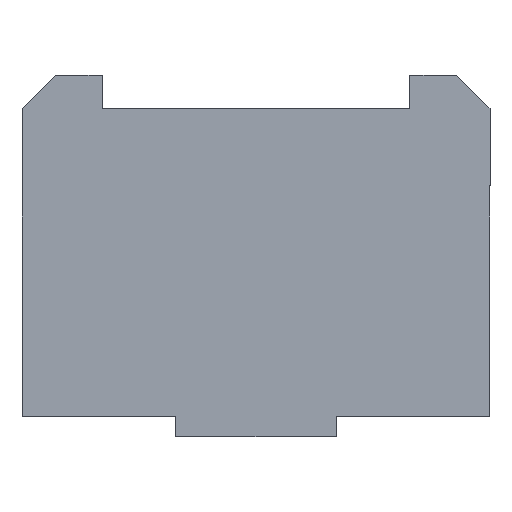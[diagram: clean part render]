
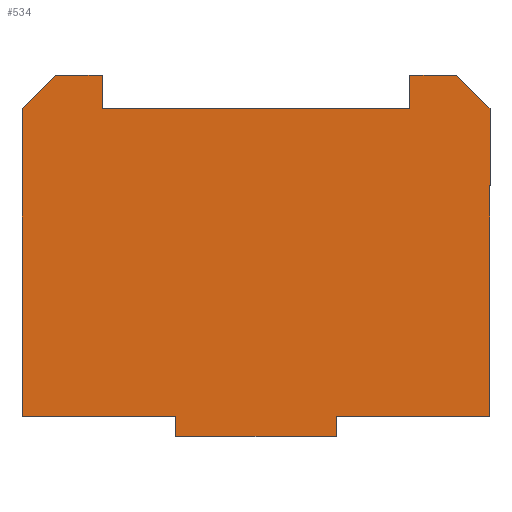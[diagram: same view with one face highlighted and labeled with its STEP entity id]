
A CAD part, top view. The second image highlights one B-rep face of the part: STEP entity #534.
In plain terms, the highlighted planar face has unit normal (0, 0, 1).
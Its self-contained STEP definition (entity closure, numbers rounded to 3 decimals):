
#194=CARTESIAN_POINT('',(35.,-30.763,18.));
#195=VERTEX_POINT('',#194);
#202=CARTESIAN_POINT('',(12.,-30.763,18.0));
#203=VERTEX_POINT('',#202);
#204=CARTESIAN_POINT('',(12.,-30.763,18.0));
#205=DIRECTION('',(1.0,0.0,0.0));
#206=VECTOR('',#205,23.0);
#207=LINE('',#204,#206);
#208=EDGE_CURVE('',#203,#195,#207,.T.);
#236=CARTESIAN_POINT('',(12.,-33.763,18.0));
#237=VERTEX_POINT('',#236);
#238=CARTESIAN_POINT('',(12.,-33.763,18.0));
#239=DIRECTION('',(0.0,1.0,0.0));
#240=VECTOR('',#239,3.0);
#241=LINE('',#238,#240);
#242=EDGE_CURVE('',#237,#203,#241,.T.);
#363=CARTESIAN_POINT('',(-12.,-33.763,18.0));
#364=VERTEX_POINT('',#363);
#365=CARTESIAN_POINT('',(-12.,-33.763,18.0));
#366=DIRECTION('',(1.0,0.0,0.0));
#367=VECTOR('',#366,24.);
#368=LINE('',#365,#367);
#369=EDGE_CURVE('',#364,#237,#368,.T.);
#391=CARTESIAN_POINT('',(-12.,-30.763,18.0));
#392=VERTEX_POINT('',#391);
#393=CARTESIAN_POINT('',(-12.,-30.763,18.0));
#394=DIRECTION('',(0.0,-1.0,0.0));
#395=VECTOR('',#394,3.0);
#396=LINE('',#393,#395);
#397=EDGE_CURVE('',#392,#364,#396,.T.);
#415=CARTESIAN_POINT('',(-35.,-30.763,18.));
#416=VERTEX_POINT('',#415);
#417=CARTESIAN_POINT('',(-35.,-30.763,18.0));
#418=DIRECTION('',(1.0,0.0,0.0));
#419=VECTOR('',#418,23.0);
#420=LINE('',#417,#419);
#421=EDGE_CURVE('',#416,#392,#420,.T.);
#441=CARTESIAN_POINT('',(-35.,15.237,18.0));
#442=VERTEX_POINT('',#441);
#443=CARTESIAN_POINT('',(-35.,15.237,18.0));
#444=DIRECTION('',(0.0,-1.0,0.0));
#445=VECTOR('',#444,46.);
#446=LINE('',#443,#445);
#447=EDGE_CURVE('',#442,#416,#446,.T.);
#459=CARTESIAN_POINT('',(0.,-7.372,18.0));
#460=DIRECTION('',(0.0,0.0,1.0));
#461=DIRECTION('',(1.0,0.0,0.0));
#462=AXIS2_PLACEMENT_3D('',#459,#460,#461);
#463=PLANE('',#462);
#464=ORIENTED_EDGE('',*,*,#208,.T.);
#465=CARTESIAN_POINT('',(35.,15.237,18.0));
#466=VERTEX_POINT('',#465);
#467=CARTESIAN_POINT('',(35.,-30.763,18.0));
#468=DIRECTION('',(0.0,1.0,0.0));
#469=VECTOR('',#468,46.);
#470=LINE('',#467,#469);
#471=EDGE_CURVE('',#195,#466,#470,.T.);
#472=ORIENTED_EDGE('',*,*,#471,.T.);
#473=CARTESIAN_POINT('',(30.,20.237,18.0));
#474=VERTEX_POINT('',#473);
#475=CARTESIAN_POINT('',(35.0,15.237,18.0));
#476=DIRECTION('',(-0.707,0.707,0.0));
#477=VECTOR('',#476,7.071);
#478=LINE('',#475,#477);
#479=EDGE_CURVE('',#466,#474,#478,.T.);
#480=ORIENTED_EDGE('',*,*,#479,.T.);
#481=CARTESIAN_POINT('',(23.,20.237,18.0));
#482=VERTEX_POINT('',#481);
#483=CARTESIAN_POINT('',(30.,20.237,18.0));
#484=DIRECTION('',(-1.0,0.0,0.0));
#485=VECTOR('',#484,7.);
#486=LINE('',#483,#485);
#487=EDGE_CURVE('',#474,#482,#486,.T.);
#488=ORIENTED_EDGE('',*,*,#487,.T.);
#489=CARTESIAN_POINT('',(23.,15.237,18.0));
#490=VERTEX_POINT('',#489);
#491=CARTESIAN_POINT('',(23.,20.237,18.0));
#492=DIRECTION('',(0.0,-1.0,0.0));
#493=VECTOR('',#492,5.);
#494=LINE('',#491,#493);
#495=EDGE_CURVE('',#482,#490,#494,.T.);
#496=ORIENTED_EDGE('',*,*,#495,.T.);
#497=CARTESIAN_POINT('',(-23.,15.237,18.0));
#498=VERTEX_POINT('',#497);
#499=CARTESIAN_POINT('',(23.,15.237,18.0));
#500=DIRECTION('',(-1.0,0.0,0.0));
#501=VECTOR('',#500,46.);
#502=LINE('',#499,#501);
#503=EDGE_CURVE('',#490,#498,#502,.T.);
#504=ORIENTED_EDGE('',*,*,#503,.T.);
#505=CARTESIAN_POINT('',(-23.,20.237,18.0));
#506=VERTEX_POINT('',#505);
#507=CARTESIAN_POINT('',(-23.,15.237,18.0));
#508=DIRECTION('',(0.0,1.0,0.0));
#509=VECTOR('',#508,5.);
#510=LINE('',#507,#509);
#511=EDGE_CURVE('',#498,#506,#510,.T.);
#512=ORIENTED_EDGE('',*,*,#511,.T.);
#513=CARTESIAN_POINT('',(-30.,20.237,18.0));
#514=VERTEX_POINT('',#513);
#515=CARTESIAN_POINT('',(-23.,20.237,18.0));
#516=DIRECTION('',(-1.0,0.0,0.0));
#517=VECTOR('',#516,7.);
#518=LINE('',#515,#517);
#519=EDGE_CURVE('',#506,#514,#518,.T.);
#520=ORIENTED_EDGE('',*,*,#519,.T.);
#521=CARTESIAN_POINT('',(-30.,20.237,18.0));
#522=DIRECTION('',(-0.707,-0.707,0.0));
#523=VECTOR('',#522,7.071);
#524=LINE('',#521,#523);
#525=EDGE_CURVE('',#514,#442,#524,.T.);
#526=ORIENTED_EDGE('',*,*,#525,.T.);
#527=ORIENTED_EDGE('',*,*,#447,.T.);
#528=ORIENTED_EDGE('',*,*,#421,.T.);
#529=ORIENTED_EDGE('',*,*,#397,.T.);
#530=ORIENTED_EDGE('',*,*,#369,.T.);
#531=ORIENTED_EDGE('',*,*,#242,.T.);
#532=EDGE_LOOP('',(#464,#472,#480,#488,#496,#504,#512,#520,#526,#527,#528,#529,#530,#531));
#533=FACE_OUTER_BOUND('',#532,.T.);
#534=ADVANCED_FACE('',(#533),#463,.T.);
